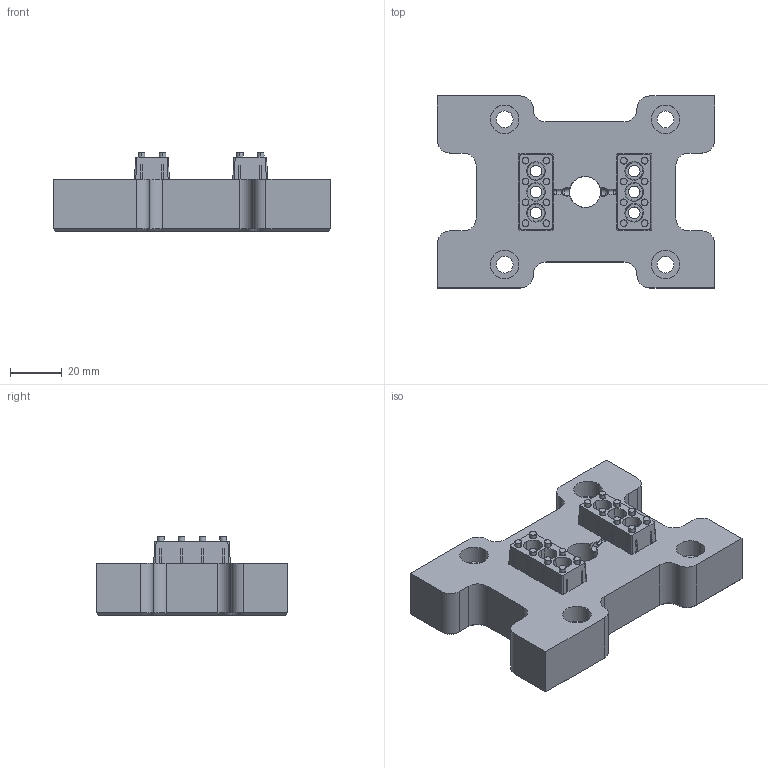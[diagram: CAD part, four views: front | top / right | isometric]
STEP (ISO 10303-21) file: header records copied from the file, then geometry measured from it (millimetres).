
FILE_DESCRIPTION(('CATIA V5 STEP Exchange'),'2;1');
FILE_NAME('C:\Users\jsmid\Desktop\Smidak_Tvarnik v2.stp','2025-05-09T01:34:43+00:00',('none'),('none'),'CATIA Version 5 Release 19 GA (IN-10)','CATIA V5 STEP AP203','none');
FILE_SCHEMA(('CONFIG_CONTROL_DESIGN'));
Length unit declared in the file: millimetre
Products named in the file (1): Part41.1
Bounding box: 107 x 74 x 30.35 mm (x, y, z)
Volume: 119420.1 mm3; surface area: 27270.6 mm2
Topology: 1 solids, 1 shells, 328 faces, 854 edges, 551 vertices
Faces by surface type: plane 158, cylinder 63, bspline 55, cone 46, revolution 4, extrusion 2
Entity records: 12499 total; most frequent: CARTESIAN_POINT 5362, ORIENTED_EDGE 1696, DIRECTION 996, EDGE_CURVE 848, VERTEX_POINT 551, VECTOR 465, LINE 463, EDGE_LOOP 379
